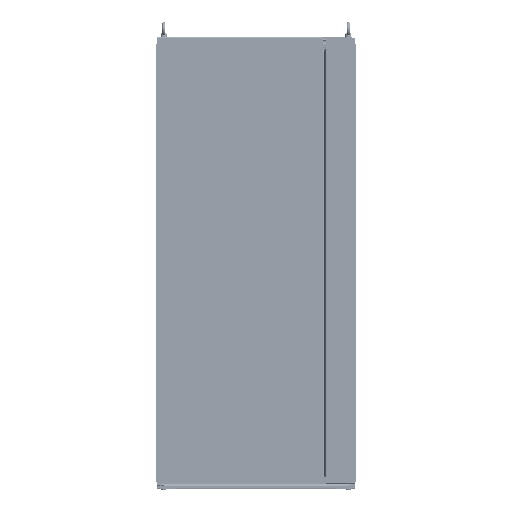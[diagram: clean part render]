
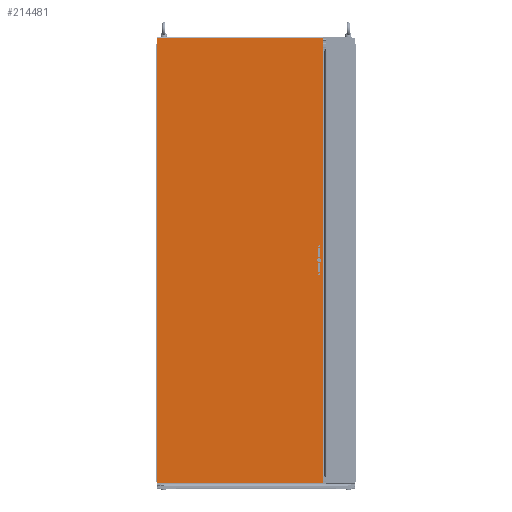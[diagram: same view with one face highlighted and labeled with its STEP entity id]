
A CAD part, top view. The second image highlights one B-rep face of the part: STEP entity #214481.
In plain terms, the highlighted planar face has unit normal (0, 0, 1).
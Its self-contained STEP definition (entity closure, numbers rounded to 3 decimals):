
#212630=DIRECTION('',(0.,1.,0.));
#212631=VECTOR('',#212630,1696.);
#212632=CARTESIAN_POINT('',(-330.5,-837.25,15.));
#212633=LINE('',#212632,#212631);
#212634=CARTESIAN_POINT('',(-314.5,43.75,15.));
#212635=DIRECTION('',(0.,0.,1.));
#212636=DIRECTION('',(1.,0.,0.));
#212637=AXIS2_PLACEMENT_3D('',#212634,#212635,#212636);
#212639=DIRECTION('',(0.,-1.,0.));
#212640=VECTOR('',#212639,27.5);
#212641=CARTESIAN_POINT('',(-319.4,43.75,15.));
#212642=LINE('',#212641,#212640);
#212643=CARTESIAN_POINT('',(-314.5,16.25,15.));
#212644=DIRECTION('',(0.,0.,1.));
#212645=DIRECTION('',(-1.,0.,0.));
#212646=AXIS2_PLACEMENT_3D('',#212643,#212644,#212645);
#212648=DIRECTION('',(0.,1.,0.));
#212649=VECTOR('',#212648,27.5);
#212650=CARTESIAN_POINT('',(-309.6,16.25,15.));
#212651=LINE('',#212650,#212649);
#212652=DIRECTION('',(0.,1.,0.));
#212653=VECTOR('',#212652,27.5);
#212654=CARTESIAN_POINT('',(-309.6,-43.75,15.));
#212655=LINE('',#212654,#212653);
#212656=CARTESIAN_POINT('',(-314.5,-16.25,15.));
#212657=DIRECTION('',(0.,0.,1.));
#212658=DIRECTION('',(1.,0.,0.));
#212659=AXIS2_PLACEMENT_3D('',#212656,#212657,#212658);
#212661=DIRECTION('',(0.,-1.,0.));
#212662=VECTOR('',#212661,27.5);
#212663=CARTESIAN_POINT('',(-319.4,-16.25,15.));
#212664=LINE('',#212663,#212662);
#212665=CARTESIAN_POINT('',(-314.5,-43.75,15.));
#212666=DIRECTION('',(0.,0.,1.));
#212667=DIRECTION('',(-1.,0.,0.));
#212668=AXIS2_PLACEMENT_3D('',#212665,#212666,#212667);
#212670=CARTESIAN_POINT('',(-314.5,56.,15.));
#212671=DIRECTION('',(0.,0.,1.));
#212672=DIRECTION('',(1.,0.,0.));
#212673=AXIS2_PLACEMENT_3D('',#212670,#212671,#212672);
#212675=CARTESIAN_POINT('',(-314.5,56.,15.));
#212676=DIRECTION('',(0.,0.,1.));
#212677=DIRECTION('',(-1.,0.,0.));
#212678=AXIS2_PLACEMENT_3D('',#212675,#212676,#212677);
#212680=CARTESIAN_POINT('',(-314.5,-56.,15.));
#212681=DIRECTION('',(0.,0.,1.));
#212682=DIRECTION('',(1.,0.,0.));
#212683=AXIS2_PLACEMENT_3D('',#212680,#212681,#212682);
#212685=CARTESIAN_POINT('',(-314.5,-56.,15.));
#212686=DIRECTION('',(0.,0.,1.));
#212687=DIRECTION('',(-1.,0.,0.));
#212688=AXIS2_PLACEMENT_3D('',#212685,#212686,#212687);
#212690=CARTESIAN_POINT('',(-314.5,0.,15.));
#212691=DIRECTION('',(0.,0.,1.));
#212692=DIRECTION('',(1.,0.,0.));
#212693=AXIS2_PLACEMENT_3D('',#212690,#212691,#212692);
#212695=CARTESIAN_POINT('',(-314.5,0.,15.));
#212696=DIRECTION('',(0.,0.,1.));
#212697=DIRECTION('',(-1.,0.,0.));
#212698=AXIS2_PLACEMENT_3D('',#212695,#212696,#212697);
#212700=DIRECTION('',(-1.,0.,0.));
#212701=VECTOR('',#212700,661.);
#212702=CARTESIAN_POINT('',(330.5,885.75,15.));
#212703=LINE('',#212702,#212701);
#212704=DIRECTION('',(0.,1.,0.));
#212705=VECTOR('',#212704,1771.5);
#212706=CARTESIAN_POINT('',(330.5,-885.75,15.));
#212707=LINE('',#212706,#212705);
#212708=DIRECTION('',(0.,-1.,0.));
#212709=VECTOR('',#212708,48.5);
#212710=CARTESIAN_POINT('',(-330.5,-837.25,15.));
#212711=LINE('',#212710,#212709);
#212712=DIRECTION('',(0.,-1.,0.));
#212713=VECTOR('',#212712,27.);
#212714=CARTESIAN_POINT('',(-330.5,885.75,15.));
#212715=LINE('',#212714,#212713);
#213604=DIRECTION('',(-1.,0.,0.));
#213605=VECTOR('',#213604,661.);
#213606=CARTESIAN_POINT('',(330.5,-885.75,15.));
#213607=LINE('',#213606,#213605);
#213997=CARTESIAN_POINT('',(330.5,-885.75,15.));
#213999=VERTEX_POINT('',#213997);
#214001=CARTESIAN_POINT('',(330.5,885.75,15.));
#214003=VERTEX_POINT('',#214001);
#214044=CARTESIAN_POINT('',(-309.6,43.75,15.));
#214045=CARTESIAN_POINT('',(-319.4,43.75,15.));
#214046=VERTEX_POINT('',#214044);
#214047=VERTEX_POINT('',#214045);
#214048=CARTESIAN_POINT('',(-319.4,16.25,15.));
#214049=VERTEX_POINT('',#214048);
#214050=CARTESIAN_POINT('',(-309.6,16.25,15.));
#214051=VERTEX_POINT('',#214050);
#214052=CARTESIAN_POINT('',(-309.6,-43.75,15.));
#214053=CARTESIAN_POINT('',(-309.6,-16.25,15.));
#214054=VERTEX_POINT('',#214052);
#214055=VERTEX_POINT('',#214053);
#214056=CARTESIAN_POINT('',(-319.4,-16.25,15.));
#214057=VERTEX_POINT('',#214056);
#214058=CARTESIAN_POINT('',(-319.4,-43.75,15.));
#214059=VERTEX_POINT('',#214058);
#214076=CARTESIAN_POINT('',(-310.5,56.,15.));
#214077=CARTESIAN_POINT('',(-318.5,56.,15.));
#214078=VERTEX_POINT('',#214076);
#214079=VERTEX_POINT('',#214077);
#214080=CARTESIAN_POINT('',(-310.5,-56.,15.));
#214081=CARTESIAN_POINT('',(-318.5,-56.,15.));
#214082=VERTEX_POINT('',#214080);
#214083=VERTEX_POINT('',#214081);
#214084=CARTESIAN_POINT('',(-306.75,0.,15.));
#214085=CARTESIAN_POINT('',(-322.25,0.,15.));
#214086=VERTEX_POINT('',#214084);
#214087=VERTEX_POINT('',#214085);
#214284=CARTESIAN_POINT('',(-330.5,885.75,15.));
#214285=CARTESIAN_POINT('',(-330.5,858.75,15.));
#214286=VERTEX_POINT('',#214284);
#214287=VERTEX_POINT('',#214285);
#214288=CARTESIAN_POINT('',(-330.5,-837.25,15.));
#214289=CARTESIAN_POINT('',(-330.5,-885.75,15.));
#214290=VERTEX_POINT('',#214288);
#214291=VERTEX_POINT('',#214289);
#214425=CARTESIAN_POINT('',(330.5,-885.75,15.));
#214426=DIRECTION('',(0.,0.,1.));
#214427=DIRECTION('',(-1.,0.,0.));
#214428=AXIS2_PLACEMENT_3D('',#214425,#214426,#214427);
#214429=PLANE('',#214428);
#214431=ORIENTED_EDGE('',*,*,#214430,.F.);
#214433=ORIENTED_EDGE('',*,*,#214432,.F.);
#214435=ORIENTED_EDGE('',*,*,#214434,.T.);
#214437=ORIENTED_EDGE('',*,*,#214436,.F.);
#214438=ORIENTED_EDGE('',*,*,#214417,.T.);
#214440=ORIENTED_EDGE('',*,*,#214439,.F.);
#214441=EDGE_LOOP('',(#214431,#214433,#214435,#214437,#214438,#214440));
#214442=FACE_OUTER_BOUND('',#214441,.F.);
#214444=ORIENTED_EDGE('',*,*,#214443,.T.);
#214446=ORIENTED_EDGE('',*,*,#214445,.T.);
#214448=ORIENTED_EDGE('',*,*,#214447,.T.);
#214450=ORIENTED_EDGE('',*,*,#214449,.T.);
#214451=EDGE_LOOP('',(#214444,#214446,#214448,#214450));
#214452=FACE_BOUND('',#214451,.F.);
#214454=ORIENTED_EDGE('',*,*,#214453,.T.);
#214456=ORIENTED_EDGE('',*,*,#214455,.T.);
#214457=EDGE_LOOP('',(#214454,#214456));
#214458=FACE_BOUND('',#214457,.F.);
#214460=ORIENTED_EDGE('',*,*,#214459,.T.);
#214462=ORIENTED_EDGE('',*,*,#214461,.T.);
#214463=EDGE_LOOP('',(#214460,#214462));
#214464=FACE_BOUND('',#214463,.F.);
#214466=ORIENTED_EDGE('',*,*,#214465,.T.);
#214468=ORIENTED_EDGE('',*,*,#214467,.T.);
#214469=EDGE_LOOP('',(#214466,#214468));
#214470=FACE_BOUND('',#214469,.F.);
#214472=ORIENTED_EDGE('',*,*,#214471,.T.);
#214474=ORIENTED_EDGE('',*,*,#214473,.T.);
#214476=ORIENTED_EDGE('',*,*,#214475,.T.);
#214478=ORIENTED_EDGE('',*,*,#214477,.T.);
#214479=EDGE_LOOP('',(#214472,#214474,#214476,#214478));
#214480=FACE_BOUND('',#214479,.F.);
#214481=ADVANCED_FACE('',(#214442,#214452,#214458,#214464,#214470,#214480),
#214429,.T.);
#212638=CIRCLE('',#212637,4.9);
#212647=CIRCLE('',#212646,4.9);
#212660=CIRCLE('',#212659,4.9);
#212669=CIRCLE('',#212668,4.9);
#212674=CIRCLE('',#212673,4.);
#212679=CIRCLE('',#212678,4.);
#212684=CIRCLE('',#212683,4.);
#212689=CIRCLE('',#212688,4.);
#212694=CIRCLE('',#212693,7.75);
#212699=CIRCLE('',#212698,7.75);
#214417=EDGE_CURVE('',#214290,#214287,#212633,.T.);
#214430=EDGE_CURVE('',#214003,#214286,#212703,.T.);
#214432=EDGE_CURVE('',#213999,#214003,#212707,.T.);
#214434=EDGE_CURVE('',#213999,#214291,#213607,.T.);
#214436=EDGE_CURVE('',#214290,#214291,#212711,.T.);
#214439=EDGE_CURVE('',#214286,#214287,#212715,.T.);
#214443=EDGE_CURVE('',#214054,#214055,#212655,.T.);
#214445=EDGE_CURVE('',#214055,#214057,#212660,.T.);
#214447=EDGE_CURVE('',#214057,#214059,#212664,.T.);
#214449=EDGE_CURVE('',#214059,#214054,#212669,.T.);
#214453=EDGE_CURVE('',#214078,#214079,#212674,.T.);
#214455=EDGE_CURVE('',#214079,#214078,#212679,.T.);
#214459=EDGE_CURVE('',#214082,#214083,#212684,.T.);
#214461=EDGE_CURVE('',#214083,#214082,#212689,.T.);
#214465=EDGE_CURVE('',#214086,#214087,#212694,.T.);
#214467=EDGE_CURVE('',#214087,#214086,#212699,.T.);
#214471=EDGE_CURVE('',#214046,#214047,#212638,.T.);
#214473=EDGE_CURVE('',#214047,#214049,#212642,.T.);
#214475=EDGE_CURVE('',#214049,#214051,#212647,.T.);
#214477=EDGE_CURVE('',#214051,#214046,#212651,.T.);
